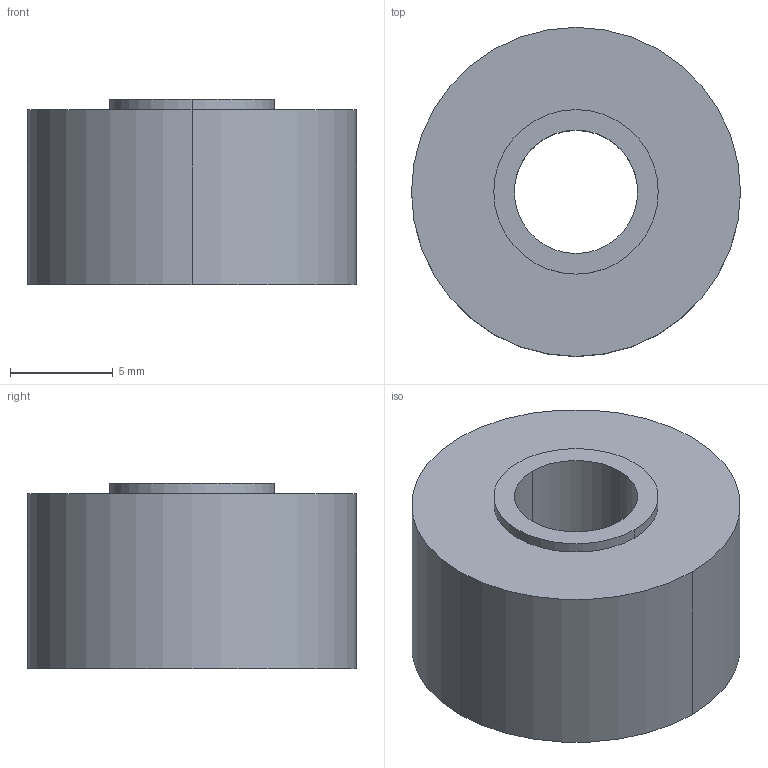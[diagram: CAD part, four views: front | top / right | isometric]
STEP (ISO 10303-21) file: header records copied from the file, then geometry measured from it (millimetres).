
FILE_DESCRIPTION((''),'2;1');
FILE_NAME('56306','2010-11-08T',('carefree'),(''),'PRO/ENGINEER BY PARAMETRIC TECHNOLOGY CORPORATION, 2005030','PRO/ENGINEER BY PARAMETRIC TECHNOLOGY CORPORATION, 2005030','');
FILE_SCHEMA(('CONFIG_CONTROL_DESIGN'));
Length unit declared in the file: millimetre
Products named in the file (1): 56306
Bounding box: 16 x 16 x 9 mm (x, y, z)
Volume: 1479.7 mm3; surface area: 955 mm2
Topology: 1 solids, 1 shells, 9 faces, 18 edges, 12 vertices
Faces by surface type: cylinder 6, plane 3
Entity records: 286 total; most frequent: DIRECTION 48, CARTESIAN_POINT 39, ORIENTED_EDGE 36, AXIS2_PLACEMENT_3D 21, EDGE_CURVE 18, VERTEX_POINT 12, EDGE_LOOP 12, CIRCLE 12
